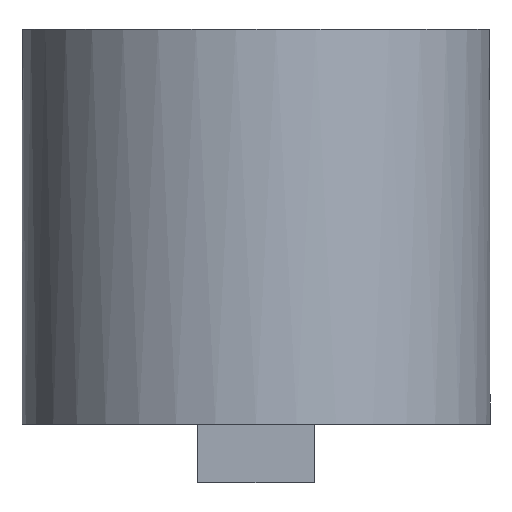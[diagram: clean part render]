
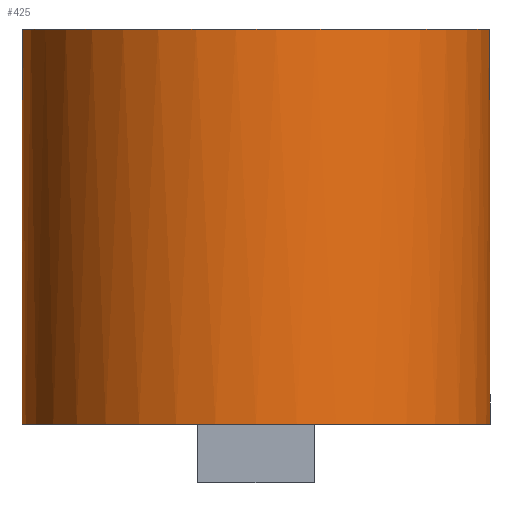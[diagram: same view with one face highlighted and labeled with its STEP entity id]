
A CAD part, front view. The second image highlights one B-rep face of the part: STEP entity #425.
In plain terms, the highlighted cylindrical face has radius 16 mm (diameter 32 mm), a partial arc.
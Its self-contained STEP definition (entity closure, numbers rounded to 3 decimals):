
#5 = CARTESIAN_POINT ( 'NONE',  ( 0., 0., 2. ) ) ;
#10 = CIRCLE ( 'NONE', #300, 16. ) ;
#32 = CARTESIAN_POINT ( 'NONE',  ( 11.619, 11., 27. ) ) ;
#38 = EDGE_CURVE ( 'NONE', #340, #315, #350, .T. ) ;
#50 = DIRECTION ( 'NONE',  ( 0., 0., -1. ) ) ;
#51 = EDGE_CURVE ( 'NONE', #580, #64, #220, .T. ) ;
#52 = CARTESIAN_POINT ( 'NONE',  ( 16., 0., 2. ) ) ;
#60 = EDGE_CURVE ( 'NONE', #178, #74, #445, .T. ) ;
#64 = VERTEX_POINT ( 'NONE', #132 ) ;
#74 = VERTEX_POINT ( 'NONE', #128 ) ;
#101 = DIRECTION ( 'NONE',  ( 0., 0., 1. ) ) ;
#111 = DIRECTION ( 'NONE',  ( 0., 0., -1. ) ) ;
#128 = CARTESIAN_POINT ( 'NONE',  ( 11.619, 11., 2. ) ) ;
#132 = CARTESIAN_POINT ( 'NONE',  ( -11.619, 11., 2. ) ) ;
#133 = FACE_OUTER_BOUND ( 'NONE', #159, .T. ) ;
#137 = DIRECTION ( 'NONE',  ( 0., 0., -1. ) ) ;
#139 = EDGE_CURVE ( 'NONE', #376, #74, #411, .T. ) ;
#154 = CARTESIAN_POINT ( 'NONE',  ( -11.619, 11., 27. ) ) ;
#159 = EDGE_LOOP ( 'NONE', ( #196, #461, #529, #437, #207, #565, #366, #344 ) ) ;
#178 = VERTEX_POINT ( 'NONE', #32 ) ;
#196 = ORIENTED_EDGE ( 'NONE', *, *, #386, .T. ) ;
#200 = EDGE_CURVE ( 'NONE', #376, #526, #513, .T. ) ;
#207 = ORIENTED_EDGE ( 'NONE', *, *, #520, .F. ) ;
#215 = CARTESIAN_POINT ( 'NONE',  ( 11.619, 11., 27. ) ) ;
#217 = AXIS2_PLACEMENT_3D ( 'NONE', #394, #137, #408 ) ;
#220 = LINE ( 'NONE', #360, #265 ) ;
#225 = CYLINDRICAL_SURFACE ( 'NONE', #217, 16. ) ;
#251 = CARTESIAN_POINT ( 'NONE',  ( -16., 0., 2. ) ) ;
#262 = DIRECTION ( 'NONE',  ( 0., 0., -1. ) ) ;
#265 = VECTOR ( 'NONE', #262, 1000. ) ;
#266 = CIRCLE ( 'NONE', #391, 16. ) ;
#267 = CARTESIAN_POINT ( 'NONE',  ( 0., 0., 0. ) ) ;
#274 = VECTOR ( 'NONE', #486, 1000. ) ;
#300 = AXIS2_PLACEMENT_3D ( 'NONE', #267, #401, #397 ) ;
#305 = CARTESIAN_POINT ( 'NONE',  ( -16., 0., 2. ) ) ;
#315 = VERTEX_POINT ( 'NONE', #521 ) ;
#326 = DIRECTION ( 'NONE',  ( 1., 0., 0. ) ) ;
#340 = VERTEX_POINT ( 'NONE', #251 ) ;
#344 = ORIENTED_EDGE ( 'NONE', *, *, #38, .T. ) ;
#350 = LINE ( 'NONE', #305, #274 ) ;
#360 = CARTESIAN_POINT ( 'NONE',  ( -11.619, 11., 27. ) ) ;
#366 = ORIENTED_EDGE ( 'NONE', *, *, #567, .T. ) ;
#370 = AXIS2_PLACEMENT_3D ( 'NONE', #5, #555, #326 ) ;
#371 = CIRCLE ( 'NONE', #525, 16. ) ;
#376 = VERTEX_POINT ( 'NONE', #52 ) ;
#386 = EDGE_CURVE ( 'NONE', #315, #526, #10, .T. ) ;
#391 = AXIS2_PLACEMENT_3D ( 'NONE', #463, #556, #544 ) ;
#394 = CARTESIAN_POINT ( 'NONE',  ( 0., 0., 2. ) ) ;
#397 = DIRECTION ( 'NONE',  ( 1., 0., 0. ) ) ;
#401 = DIRECTION ( 'NONE',  ( 0., 0., 1. ) ) ;
#408 = DIRECTION ( 'NONE',  ( -1., 0., 0. ) ) ;
#411 = CIRCLE ( 'NONE', #370, 16. ) ;
#424 = DIRECTION ( 'NONE',  ( 1., 0., 0. ) ) ;
#425 = ADVANCED_FACE ( 'NONE', ( #133 ), #225, .T. ) ;
#437 = ORIENTED_EDGE ( 'NONE', *, *, #60, .F. ) ;
#445 = LINE ( 'NONE', #215, #506 ) ;
#448 = VECTOR ( 'NONE', #111, 1000. ) ;
#456 = CARTESIAN_POINT ( 'NONE',  ( 16., 0., 0. ) ) ;
#461 = ORIENTED_EDGE ( 'NONE', *, *, #200, .F. ) ;
#463 = CARTESIAN_POINT ( 'NONE',  ( 0., 0., 2. ) ) ;
#486 = DIRECTION ( 'NONE',  ( 0., 0., -1. ) ) ;
#495 = CARTESIAN_POINT ( 'NONE',  ( 0., 0., 27. ) ) ;
#506 = VECTOR ( 'NONE', #50, 1000. ) ;
#509 = CARTESIAN_POINT ( 'NONE',  ( 16., 0., 2. ) ) ;
#513 = LINE ( 'NONE', #509, #448 ) ;
#520 = EDGE_CURVE ( 'NONE', #580, #178, #371, .T. ) ;
#521 = CARTESIAN_POINT ( 'NONE',  ( -16., 0., 0. ) ) ;
#525 = AXIS2_PLACEMENT_3D ( 'NONE', #495, #101, #424 ) ;
#526 = VERTEX_POINT ( 'NONE', #456 ) ;
#529 = ORIENTED_EDGE ( 'NONE', *, *, #139, .T. ) ;
#544 = DIRECTION ( 'NONE',  ( 1., 0., 0. ) ) ;
#555 = DIRECTION ( 'NONE',  ( 0., 0., 1. ) ) ;
#556 = DIRECTION ( 'NONE',  ( 0., 0., 1. ) ) ;
#565 = ORIENTED_EDGE ( 'NONE', *, *, #51, .T. ) ;
#567 = EDGE_CURVE ( 'NONE', #64, #340, #266, .T. ) ;
#580 = VERTEX_POINT ( 'NONE', #154 ) ;
